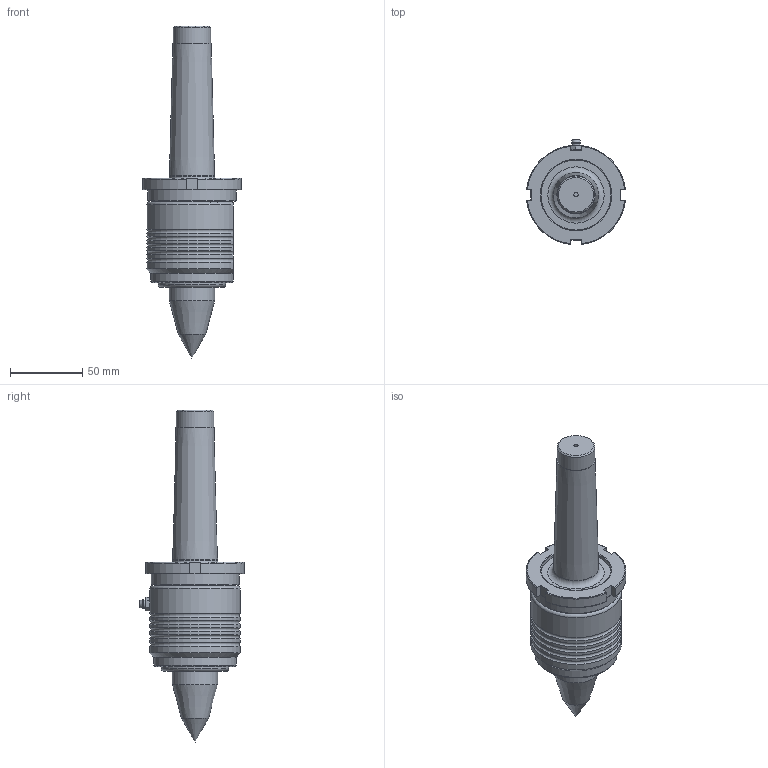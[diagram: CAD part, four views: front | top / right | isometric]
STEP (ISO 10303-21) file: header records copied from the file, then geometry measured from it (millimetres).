
FILE_DESCRIPTION(/* description */ (''),/* implementation_level */ '2;1');
FILE_NAME(/* name */ '',/* time_stamp */ '2025-05-21T17:31:32+03:00',/* author */ ('User'),/* organization */ (''),/* preprocessor_version */ 'ST-DEVELOPER v19.2',/* originating_system */ 'Autodesk Inventor 2024',/* authorisation */ '');
FILE_SCHEMA (('AUTOMOTIVE_DESIGN { 1 0 10303 214 3 1 1 }'));
Length unit declared in the file: millimetre
Products named in the file (1): Токарный центр 
SC-61-M-5A
Bounding box: 68.53 x 72.77 x 230 mm (x, y, z)
Volume: 309700.9 mm3; surface area: 36696.3 mm2
Topology: 1 solids, 1 shells, 83 faces, 197 edges, 127 vertices
Faces by surface type: plane 36, cylinder 21, torus 19, cone 7
Full cylindrical faces by diameter (mm): 3 x1, 5.5 x1, 6.6 x1, 26 x1, 31 x1, 31.3 x1, 47 x1, 48.5 x1, 50 x1, 57 x1, 61 x1
Entity records: 2803 total; most frequent: CARTESIAN_POINT 747, DIRECTION 412, ORIENTED_EDGE 392, EDGE_CURVE 196, AXIS2_PLACEMENT_3D 162, VERTEX_POINT 127, EDGE_LOOP 95, LINE 88
